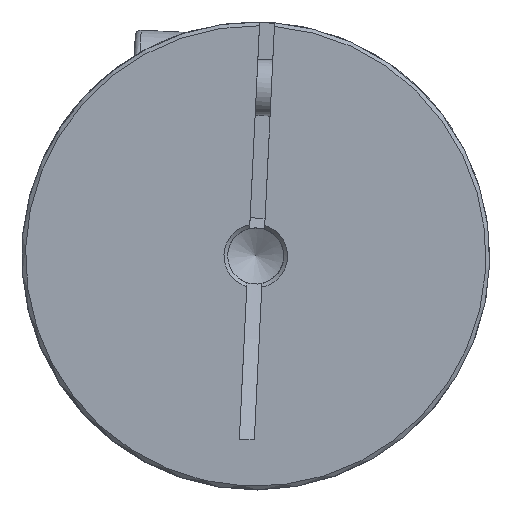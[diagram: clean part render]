
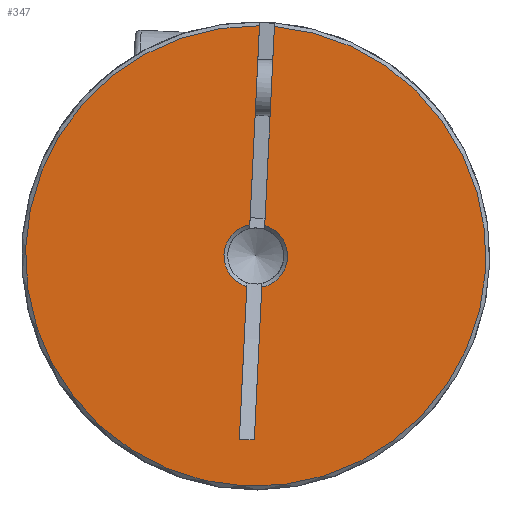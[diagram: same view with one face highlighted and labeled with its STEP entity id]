
A CAD part, left-side view. The second image highlights one B-rep face of the part: STEP entity #347.
In plain terms, the highlighted planar face has unit normal (-1, 0, 0) as drawn and (0, 0, 1) by its records, which use the part's own axes.
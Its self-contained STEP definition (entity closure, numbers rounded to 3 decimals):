
#347 = ADVANCED_FACE( 'NONE', ( #772 ), #773, .T. );
#772 = FACE_OUTER_BOUND( '', #1383, .T. );
#773 = PLANE( '', #1384 );
#1383 = EDGE_LOOP( '', ( #2078, #2079, #2080, #2081, #2082, #2083, #2084, #2085 ) );
#1384 = AXIS2_PLACEMENT_3D( '', #2086, #2087, #2088 );
#2078 = ORIENTED_EDGE( '', *, *, #3030, .F. );
#2079 = ORIENTED_EDGE( '', *, *, #3031, .T. );
#2080 = ORIENTED_EDGE( '', *, *, #3032, .F. );
#2081 = ORIENTED_EDGE( '', *, *, #2922, .T. );
#2082 = ORIENTED_EDGE( '', *, *, #2957, .T. );
#2083 = ORIENTED_EDGE( '', *, *, #3012, .T. );
#2084 = ORIENTED_EDGE( '', *, *, #3033, .T. );
#2085 = ORIENTED_EDGE( '', *, *, #2997, .F. );
#2086 = CARTESIAN_POINT( '', ( 0., 0., 11.25 ) );
#2087 = DIRECTION( '', ( 0., 0., 1. ) );
#2088 = DIRECTION( '', ( 1., 0., 0. ) );
#2922 = EDGE_CURVE( 'NONE', #3317, #3314, #3318, .T. );
#2957 = EDGE_CURVE( 'NONE', #3314, #3372, #3374, .T. );
#2997 = EDGE_CURVE( 'NONE', #3439, #3440, #3441, .F. );
#3012 = EDGE_CURVE( 'NONE', #3372, #3460, #3463, .F. );
#3030 = EDGE_CURVE( 'NONE', #3489, #3439, #3490, .F. );
#3031 = EDGE_CURVE( 'NONE', #3489, #3491, #3492, .F. );
#3032 = EDGE_CURVE( 'NONE', #3317, #3491, #3493, .T. );
#3033 = EDGE_CURVE( 'NONE', #3460, #3440, #3494, .T. );
#3314 = VERTEX_POINT( 'NONE', #3863 );
#3317 = VERTEX_POINT( 'NONE', #3869 );
#3318 = CIRCLE( '', #3870, 12.3 );
#3372 = VERTEX_POINT( 'NONE', #3983 );
#3374 = LINE( '', #3988, #3989 );
#3439 = VERTEX_POINT( 'NONE', #4109 );
#3440 = VERTEX_POINT( 'NONE', #4110 );
#3441 = LINE( '', #4111, #4112 );
#3460 = VERTEX_POINT( 'NONE', #4137 );
#3463 = CIRCLE( '', #4143, 1.7 );
#3489 = VERTEX_POINT( 'NONE', #4169 );
#3490 = LINE( '', #4170, #4171 );
#3491 = VERTEX_POINT( 'NONE', #4172 );
#3492 = CIRCLE( '', #4173, 1.7 );
#3493 = LINE( '', #4174, #4175 );
#3494 = LINE( '', #4176, #4177 );
#3863 = CARTESIAN_POINT( '', ( 12.293, -0.4, 11.25 ) );
#3869 = CARTESIAN_POINT( '', ( 12.293, 0.4, 11.25 ) );
#3870 = AXIS2_PLACEMENT_3D( '', #4606, #4607, #4608 );
#3983 = CARTESIAN_POINT( '', ( 1.652, -0.4, 11.25 ) );
#3988 = CARTESIAN_POINT( '', ( 0., -0.4, 11.25 ) );
#3989 = VECTOR( '', #4664, 1000. );
#4109 = CARTESIAN_POINT( '', ( -9.815, 0.4, 11.25 ) );
#4110 = CARTESIAN_POINT( '', ( -9.815, -0.4, 11.25 ) );
#4111 = CARTESIAN_POINT( '', ( -9.815, -0.4, 11.25 ) );
#4112 = VECTOR( '', #4727, 1000. );
#4137 = CARTESIAN_POINT( '', ( -1.652, -0.4, 11.25 ) );
#4143 = AXIS2_PLACEMENT_3D( '', #4743, #4744, #4745 );
#4169 = CARTESIAN_POINT( '', ( -1.652, 0.4, 11.25 ) );
#4170 = CARTESIAN_POINT( '', ( 7., 0.4, 11.25 ) );
#4171 = VECTOR( '', #4776, 1000. );
#4172 = CARTESIAN_POINT( '', ( 1.652, 0.4, 11.25 ) );
#4173 = AXIS2_PLACEMENT_3D( '', #4777, #4778, #4779 );
#4174 = CARTESIAN_POINT( '', ( 0., 0.4, 11.25 ) );
#4175 = VECTOR( '', #4780, 1000. );
#4176 = CARTESIAN_POINT( '', ( 0., -0.4, 11.25 ) );
#4177 = VECTOR( '', #4781, 1000. );
#4606 = CARTESIAN_POINT( '', ( 0., 0., 11.25 ) );
#4607 = DIRECTION( '', ( 0., 0., 1. ) );
#4608 = DIRECTION( '', ( 1., 0., 0. ) );
#4664 = DIRECTION( '', ( -1., 0., 0. ) );
#4727 = DIRECTION( '', ( 0., 1., 0. ) );
#4743 = CARTESIAN_POINT( '', ( 0., 0., 11.25 ) );
#4744 = DIRECTION( '', ( 0., 0., 1. ) );
#4745 = DIRECTION( '', ( 1., 0., 0. ) );
#4776 = DIRECTION( '', ( 1., 0., 0. ) );
#4777 = CARTESIAN_POINT( '', ( 0., 0., 11.25 ) );
#4778 = DIRECTION( '', ( 0., 0., 1. ) );
#4779 = DIRECTION( '', ( 1., 0., 0. ) );
#4780 = DIRECTION( '', ( -1., 0., 0. ) );
#4781 = DIRECTION( '', ( -1., 0., 0. ) );
